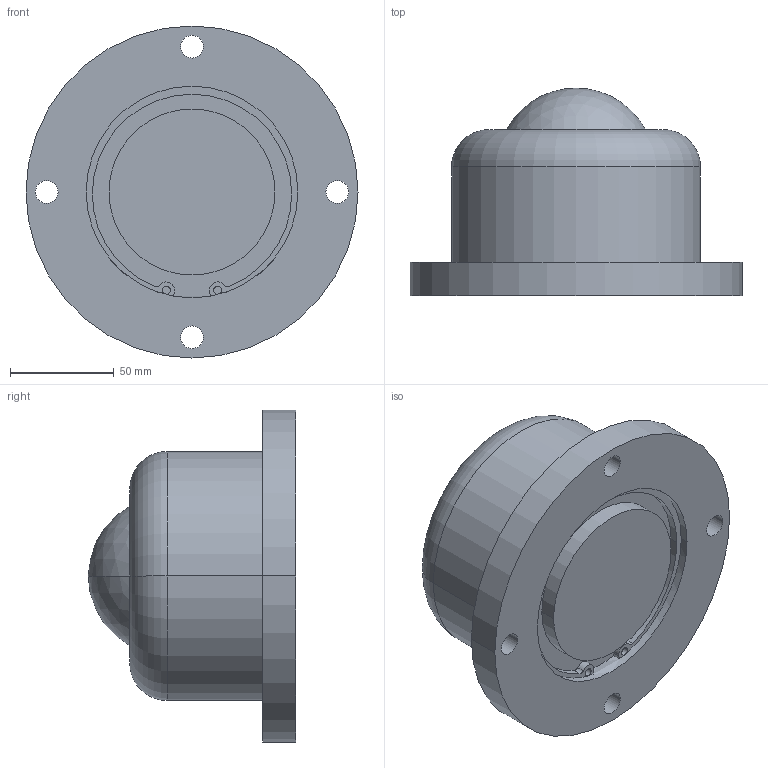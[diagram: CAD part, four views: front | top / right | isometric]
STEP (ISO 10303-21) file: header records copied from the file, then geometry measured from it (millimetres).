
FILE_DESCRIPTION (( 'STEP AP203' ), '1' );
FILE_NAME ('PV900F.STEP', '2015-12-09T09:38:09', ( '' ), ( '' ), 'SwSTEP 2.0', 'SolidWorks 2013', '' );
FILE_SCHEMA (( 'CONFIG_CONTROL_DESIGN' ));
Length unit declared in the file: millimetre
Products named in the file (1): PV900F
Bounding box: 160 x 100 x 160 mm (x, y, z)
Volume: 1032956.4 mm3; surface area: 76683.7 mm2
Topology: 1 solids, 1 shells, 44 faces, 107 edges, 71 vertices
Faces by surface type: cylinder 30, plane 10, sphere 2, torus 2
Entity records: 1426 total; most frequent: DIRECTION 267, CARTESIAN_POINT 223, ORIENTED_EDGE 214, AXIS2_PLACEMENT_3D 115, EDGE_CURVE 107, VERTEX_POINT 71, CIRCLE 70, EDGE_LOOP 58
